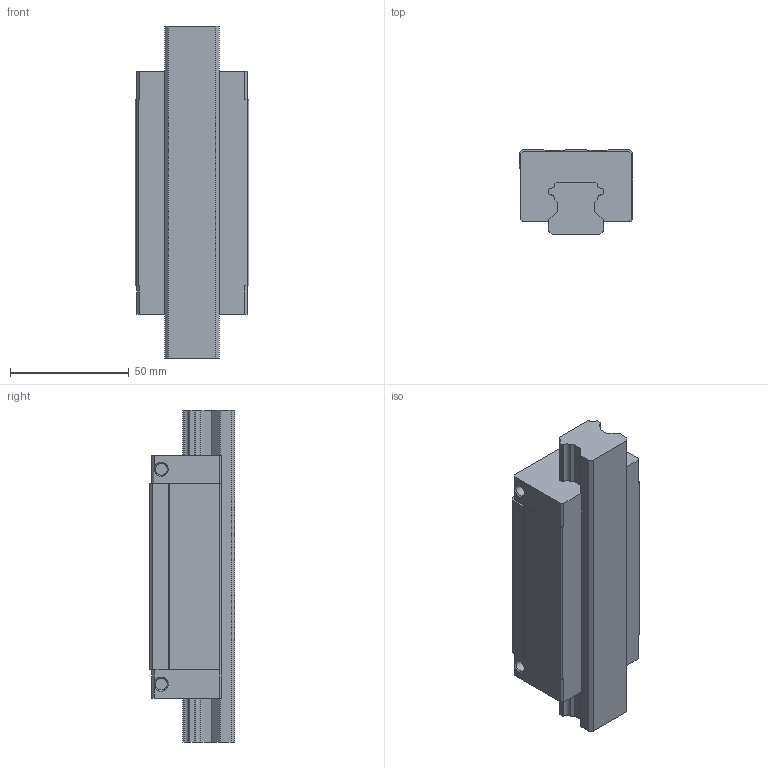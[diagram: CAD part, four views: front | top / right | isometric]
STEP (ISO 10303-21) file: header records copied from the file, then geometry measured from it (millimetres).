
FILE_DESCRIPTION (( 'STEP AP214' ), '1' );
FILE_NAME ('2.1039 Lineaarikelkka HGL25HA.STEP', '2025-09-19T06:36:04', ( '' ), ( '' ), 'SwSTEP 2.0', 'SolidWorks 2025', '' );
FILE_SCHEMA (( 'AUTOMOTIVE_DESIGN' ));
Length unit declared in the file: millimetre
Products named in the file (1): 2.1039 Lineaarikelkka HGL25HA
Bounding box: 48 x 36 x 140 mm (x, y, z)
Volume: 173937.2 mm3; surface area: 36527 mm2
Topology: 2 solids, 2 shells, 120 faces, 332 edges, 216 vertices
Faces by surface type: plane 84, cylinder 28, cone 8
Entity records: 5032 total; most frequent: CARTESIAN_POINT 645, ORIENTED_EDGE 632, DIRECTION 622, EDGE_CURVE 316, VECTOR 252, LINE 252, VERTEX_POINT 208, AXIS2_PLACEMENT_3D 185
